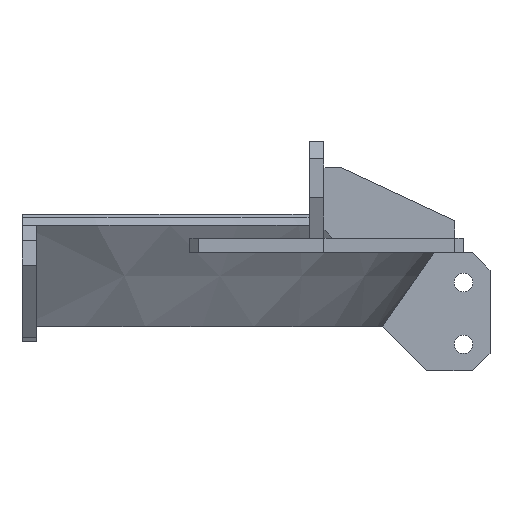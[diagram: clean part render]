
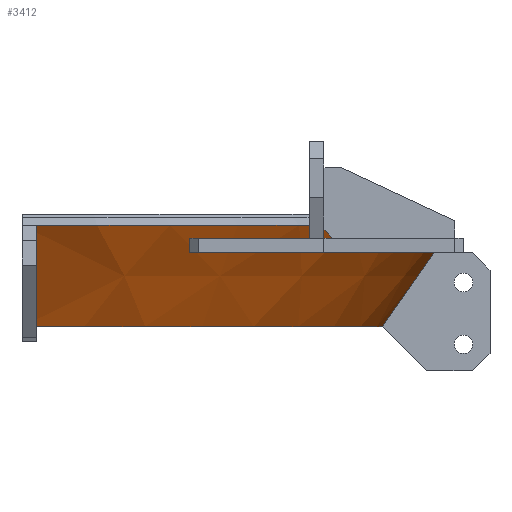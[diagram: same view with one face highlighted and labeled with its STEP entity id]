
A CAD part, left-side view. The second image highlights one B-rep face of the part: STEP entity #3412.
In plain terms, the highlighted conical face has half-angle 35 degrees and reference radius 224.128 mm.
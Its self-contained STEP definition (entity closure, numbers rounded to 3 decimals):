
#1407=CONICAL_SURFACE('',#3595,224.128,0.611);
#1467=CIRCLE('',#3594,204.053);
#1468=CIRCLE('',#3596,244.204);
#1641=FACE_OUTER_BOUND('',#1772,.T.);
#1772=EDGE_LOOP('',(#3205,#3206,#3207,#3208));
#1988=LINE('',#4880,#2207);
#1992=LINE('',#4894,#2211);
#2207=VECTOR('',#4166,10.);
#2211=VECTOR('',#4182,10.);
#2410=VERTEX_POINT('',#4877);
#2411=VERTEX_POINT('',#4879);
#2414=VERTEX_POINT('',#4889);
#2415=VERTEX_POINT('',#4893);
#2673=EDGE_CURVE('',#2411,#2410,#1988,.T.);
#2679=EDGE_CURVE('',#2414,#2410,#1467,.T.);
#2680=EDGE_CURVE('',#2414,#2415,#1992,.T.);
#2681=EDGE_CURVE('',#2415,#2411,#1468,.T.);
#3205=ORIENTED_EDGE('',*,*,#2680,.T.);
#3206=ORIENTED_EDGE('',*,*,#2681,.T.);
#3207=ORIENTED_EDGE('',*,*,#2673,.T.);
#3208=ORIENTED_EDGE('',*,*,#2679,.F.);
#3412=ADVANCED_FACE('',(#1641),#1407,.T.);
#3594=AXIS2_PLACEMENT_3D('',#4891,#4178,#4179);
#3595=AXIS2_PLACEMENT_3D('',#4892,#4180,#4181);
#3596=AXIS2_PLACEMENT_3D('',#4895,#4183,#4184);
#4166=DIRECTION('',(0.574,0.,-0.819));
#4178=DIRECTION('center_axis',(0.,0.,-1.));
#4179=DIRECTION('ref_axis',(0.,1.,0.));
#4180=DIRECTION('center_axis',(0.,0.,1.));
#4181=DIRECTION('ref_axis',(0.,-1.,0.));
#4182=DIRECTION('',(0.574,0.,0.819));
#4183=DIRECTION('center_axis',(0.,0.,-1.));
#4184=DIRECTION('ref_axis',(0.,1.,0.));
#4877=CARTESIAN_POINT('',(-204.053,-195.,195.));
#4879=CARTESIAN_POINT('',(-244.204,-195.,252.341));
#4880=CARTESIAN_POINT('',(-224.128,-195.,223.67));
#4889=CARTESIAN_POINT('',(204.053,-195.,195.));
#4891=CARTESIAN_POINT('Origin',(0.,-195.,195.));
#4892=CARTESIAN_POINT('Origin',(0.,-195.,223.67));
#4893=CARTESIAN_POINT('',(244.204,-195.,252.341));
#4894=CARTESIAN_POINT('',(224.128,-195.,223.67));
#4895=CARTESIAN_POINT('Origin',(0.,-195.,252.341));
